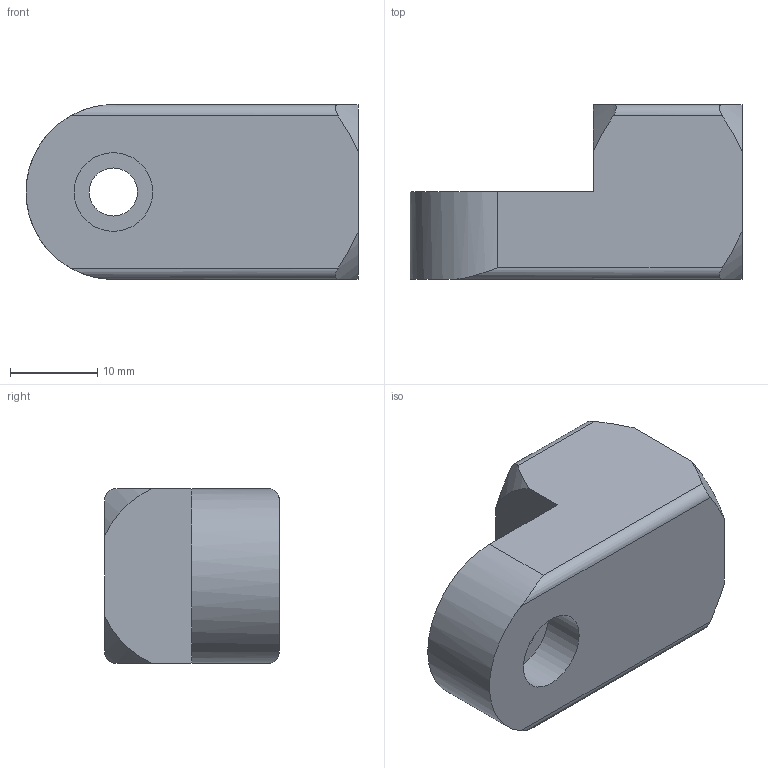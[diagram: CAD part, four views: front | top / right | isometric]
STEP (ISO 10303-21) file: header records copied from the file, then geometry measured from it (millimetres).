
FILE_DESCRIPTION( ( 'STEP AP203' ), '1' );
FILE_NAME( 'C:/Temp/Ganter_Step_05_03_2020/data/3_7/gn_484/Attachment clamp mounting GN 484-M6-20-ELS.stp', '2020-03-12T14:47:00', ( 'License CC BY-ND 4.0' ), ( 'CADENAS' ), ' ', 'PARTsolutions', ' ' );
FILE_SCHEMA( ( 'CONFIG_CONTROL_DESIGN' ) );
Length unit declared in the file: millimetre
Products named in the file (1): _Attachment clamp mounting GN 484-M6-20-ELS
Bounding box: 38 x 20 x 20 mm (x, y, z)
Volume: 9302.8 mm3; surface area: 4000.4 mm2
Topology: 1 solids, 1 shells, 38 faces, 90 edges, 57 vertices
Faces by surface type: cone 15, cylinder 13, plane 10
Full cylindrical faces by diameter (mm): 3.242 x4, 4.917 x1, 5.5 x1, 8.5 x1, 9 x1
Entity records: 1148 total; most frequent: CARTESIAN_POINT 319, DIRECTION 156, ORIENTED_EDGE 138, EDGE_CURVE 69, AXIS2_PLACEMENT_3D 68, EDGE_LOOP 60, VERTEX_POINT 57, FACE_OUTER_BOUND 46
